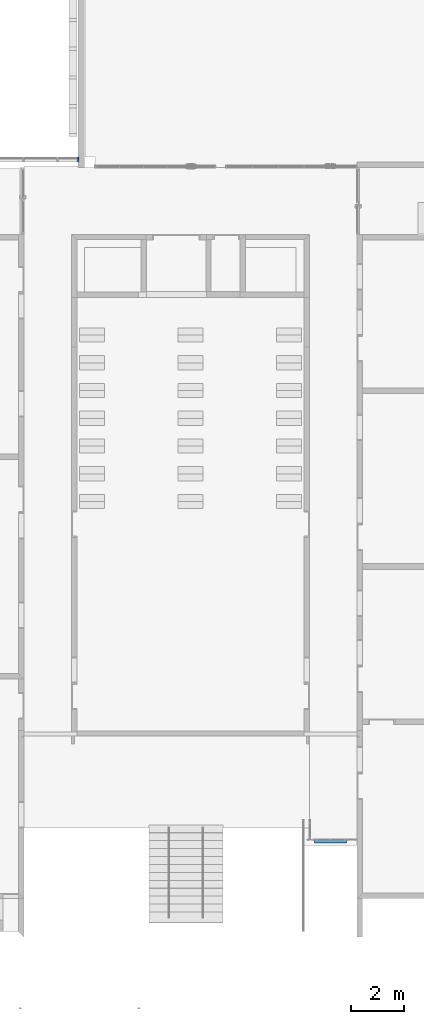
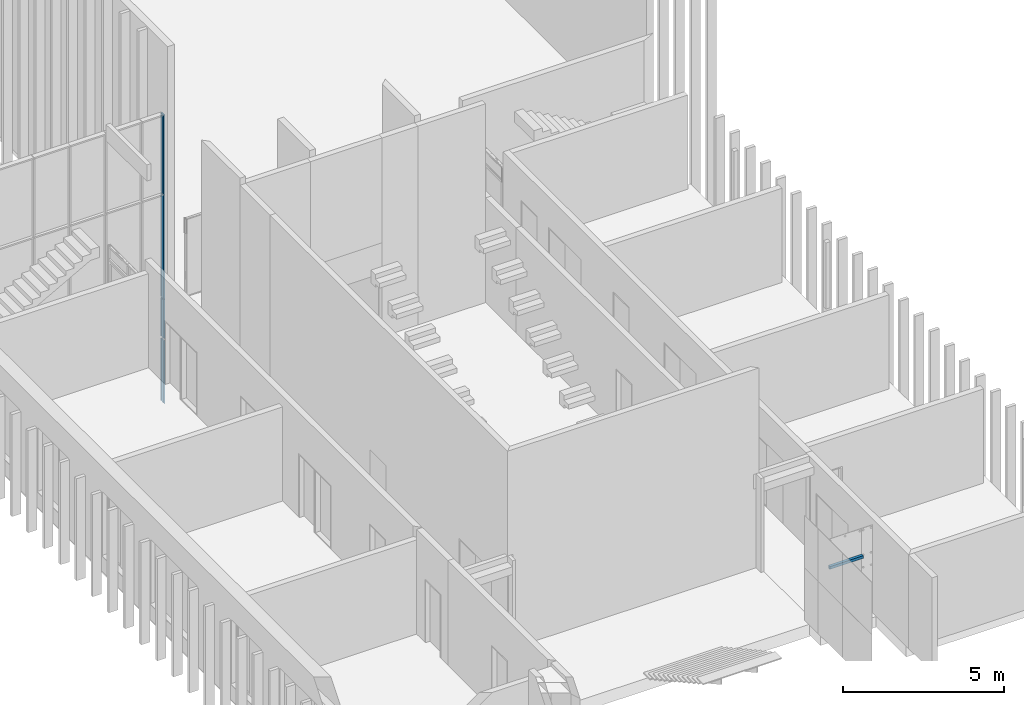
# One storey, part 5 of 62: 4 members, 1 beam, 1 element without a shape of its own.
"""IFC2X3 building model written with IfcOpenShell, lengths in millimetres."""

from ifc_helpers import new_model, entity, si_unit, converted_unit, derived_unit, money_unit, direction, frame, frame_2d, origin_with_axes, place, context, subcontext, project, spatial, polyline, rectangle, outline, extrude, clip, halfspace, material, type_object, element, aggregate, save


model = new_model("IFC2X3")

# Units and contexts
model_context = context("Model", 3, precision=0.01, world=origin_with_axes(), true_north=direction((0.0, 1.0)))
body_context = subcontext(model_context, "Body", "Model", "MODEL_VIEW")
ifc_project = project(units=[si_unit("LENGTHUNIT", "METRE", prefix="MILLI"), si_unit("AREAUNIT", "SQUARE_METRE"), si_unit("VOLUMEUNIT", "CUBIC_METRE"), converted_unit("PLANEANGLEUNIT", "DEGREE", entity("IfcPlaneAngleMeasure", 0.0174532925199), si_unit("PLANEANGLEUNIT", "RADIAN"), dimensions=[0, 0, 0, 0, 0, 0, 0]), si_unit("SOLIDANGLEUNIT", "STERADIAN"), money_unit("EUR"), converted_unit("TIMEUNIT", "Year", entity("IfcTimeMeasure", 31556926.0), si_unit("TIMEUNIT", "SECOND"), dimensions=[0, 0, 1, 0, 0, 0, 0]), si_unit("MASSUNIT", "GRAM", prefix="KILO"), si_unit("THERMODYNAMICTEMPERATUREUNIT", "DEGREE_CELSIUS"), si_unit("LUMINOUSINTENSITYUNIT", "LUMEN"), si_unit("ENERGYUNIT", "JOULE", prefix="MEGA"), derived_unit("THERMALCONDUCTANCEUNIT", [(si_unit("POWERUNIT", "WATT"), 1), (si_unit("LENGTHUNIT", "METRE"), -1), (si_unit("THERMODYNAMICTEMPERATUREUNIT", "KELVIN"), -1)]), derived_unit("SPECIFICHEATCAPACITYUNIT", [(si_unit("ENERGYUNIT", "JOULE"), 1), (si_unit("MASSUNIT", "GRAM", prefix="KILO"), -1), (si_unit("THERMODYNAMICTEMPERATUREUNIT", "KELVIN"), -1)]), derived_unit("MASSDENSITYUNIT", [(si_unit("MASSUNIT", "GRAM", prefix="KILO"), 1), (si_unit("VOLUMEUNIT", "CUBIC_METRE"), -1)])], contexts=[model_context])

# Site, building, storey
site_placement = place(None, origin_with_axes())
site = spatial("IfcSite", under=ifc_project, at=site_placement, Name="Puškini 31, Narva", CompositionType="ELEMENT")
building_placement = place(site_placement, origin_with_axes())
building = spatial("IfcBuilding", under=site, at=building_placement, Name="Narva Riigigümnaasium", CompositionType="ELEMENT")
storey_placement = place(building_placement, frame((0.0, 0.0, 660.0), z_axis=(0.0, 0.0, 1.0), x_axis=(1.0, 0.0, 0.0)))
storey = spatial("IfcBuildingStorey", under=building, at=storey_placement, Name="2.korrus +0.66", CompositionType="ELEMENT", Elevation=660.0)

# Beam
ifc_material_1 = material(Name="ET-06_Teras - Konstruktsioon")
beam_type = type_object("IfcBeamType", Name="ET-06_Teras - Konstruktsioon 100 x 100", PredefinedType="BEAM")
beam_placement = place(storey_placement, frame((47100.0, 198260.000001, 2380.00001822), z_axis=(0.0, 0.0, 1.0), x_axis=(0.0, 1.0, 0.0)))
element("IfcBeam", 1, at=beam_placement, inside=storey, type_object=beam_type, material=ifc_material_1, Name="TALA", ObjectType="BEAM", context=body_context, shape_type="SweptSolid", body=[
    extrude(rectangle(XDim=100.0, YDim=100.0, at=frame_2d((-50.0, 50.0), x_axis=(1.0, 0.0))), frame((0.0, 0.0, 0.0), z_axis=(0.0, 1.0, 0.0), x_axis=(0.0, 0.0, 1.0)), (0.0, 0.0, 1.0), 1200.0),
])

# Curtain wall, members
curtain_wall_type = type_object("IfcCurtainWallType", Name="Curtain Wall Type", PredefinedType="NOTDEFINED")
curtain_wall_placement = place(storey_placement, frame((29287.8078111, 224154.987122, -3960.0), z_axis=(0.0, 0.0, 1.0), x_axis=(1.0, 0.0, 0.0)))
curtain_wall = element("IfcCurtainWall", 2, at=curtain_wall_placement, inside=storey, type_object=curtain_wall_type, Name="G-KLF-05")
ifc_material_2 = material(Name="ET-04_Alumiinium")
member_type = type_object("IfcMemberType", Name="Boundary Frame 50 x 176", PredefinedType="MULLION")
member_1_placement = place(curtain_wall_placement, frame((7692.19233275, 0.0, 3960.0), z_axis=(0.0, 0.0, -1.0), x_axis=(-1.0, 0.0, 0.0)))
member_1 = element("IfcMember", 3, at=member_1_placement, type_object=member_type, material=ifc_material_2, Name="klaasfassaadi raam", ObjectType="MULLION", context=body_context, shape_type="Clipping", body=[
    clip(extrude(outline(polyline([(-35.0, 29.0), (-35.0, -29.0), (-50.0, -29.0), (-50.0, -46.0), (0.0, -46.0), (0.0, 130.0), (-50.0, 130.0), (-50.0, 29.0), (-35.0, 29.0)])), frame((0.0, 0.0, 0.0), z_axis=(0.0, 0.0, 1.0), x_axis=(-1.0, 0.0, 0.0)), (0.0, 0.0, 1.0), 1480.0), halfspace(frame((0.0, 0.0, 0.0), z_axis=(-0.4472135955, 0.0, 0.894427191), x_axis=(0.0, -1.0, 0.0)), True)),
])
member_2_placement = place(curtain_wall_placement, frame((7692.19233275, 0.0, 7920.0), z_axis=(0.0, 0.0, -1.0), x_axis=(-1.0, 0.0, 0.0)))
member_2 = element("IfcMember", 4, at=member_2_placement, type_object=member_type, material=ifc_material_2, Name="klaasfassaadi raam", ObjectType="MULLION", context=body_context, shape_type="Clipping", body=[
    clip(clip(extrude(outline(polyline([(-35.0, 29.0), (-35.0, -29.0), (-50.0, -29.0), (-50.0, -46.0), (0.0, -46.0), (0.0, 130.0), (-50.0, 130.0), (-50.0, 29.0), (-35.0, 29.0)])), frame((0.0, 0.0, 0.0), z_axis=(0.0, 0.0, 1.0), x_axis=(-1.0, 0.0, 0.0)), (0.0, 0.0, 1.0), 3960.0), halfspace(frame((1583.99996711, 0.0, 3168.00004386), z_axis=(-0.447213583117, 0.0, -0.894427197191), x_axis=(0.0, 1.0, 0.0)), True)), halfspace(frame((0.0, 0.0, 0.0), z_axis=(-0.447213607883, 0.0, 0.894427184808), x_axis=(0.0, -1.0, 0.0)), True)),
])
member_3_placement = place(curtain_wall_placement, frame((7692.19226651, 0.0, 10950.0000373), z_axis=(2.18589793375e-08, 0.0, -1.0), x_axis=(-1.0, 0.0, -2.18589793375e-08)))
member_3 = element("IfcMember", 5, at=member_3_placement, type_object=member_type, material=ifc_material_2, Name="klaasfassaadi raam", ObjectType="MULLION", context=body_context, shape_type="Clipping", body=[
    clip(clip(extrude(outline(polyline([(-35.0, 29.0), (-35.0, -29.0), (-50.0, -29.0), (-50.0, -46.0), (0.0, -46.0), (0.0, 130.0), (-50.0, 130.0), (-50.0, 29.0), (-35.0, 29.0)])), frame((0.0, 0.0, 0.0), z_axis=(0.0, 0.0, 1.0), x_axis=(-1.0, 0.0, 2.18589793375e-08)), (0.0, 0.0, 1.0), 3030.00003725), halfspace(frame((1212.00004669, 0.0, 2423.99998741), z_axis=(-0.447213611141, 0.0, -0.894427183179), x_axis=(0.0, 1.0, 0.0)), True)), halfspace(frame((0.0, 0.0, 0.0), z_axis=(-0.707106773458, 0.0, 0.707106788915), x_axis=(0.0, -1.0, 0.0)), True)),
])
member_4_placement = place(curtain_wall_placement, frame((7692.19233275, 0.0, 2400.00000127), z_axis=(0.0, 0.0, -1.0), x_axis=(-1.0, 0.0, 0.0)))
member_4 = element("IfcMember", 6, at=member_4_placement, type_object=member_type, material=ifc_material_2, Name="klaasfassaadi raam", ObjectType="MULLION", context=body_context, shape_type="Clipping", body=[
    clip(extrude(outline(polyline([(-35.0, 29.0), (-35.0, -29.0), (-50.0, -29.0), (-50.0, -46.0), (0.0, -46.0), (0.0, 130.0), (-50.0, 130.0), (-50.0, 29.0), (-35.0, 29.0)])), frame((0.0, 0.0, 0.0), z_axis=(0.0, 0.0, 1.0), x_axis=(-1.0, 0.0, 0.0)), (0.0, 0.0, 1.0), 2400.00000127), halfspace(frame((1200.00000063, 0.0, 1200.00000063), z_axis=(-0.707106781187, 0.0, -0.707106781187), x_axis=(0.0, 1.0, 0.0)), True)),
])
aggregate(curtain_wall, [member_1, member_2, member_3, member_4])

save(model, "model.ifc")
